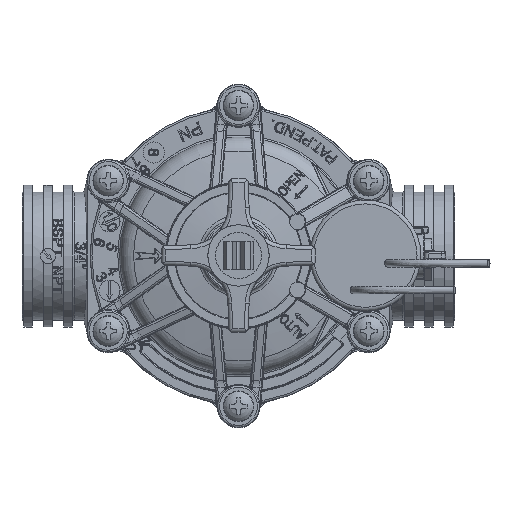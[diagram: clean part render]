
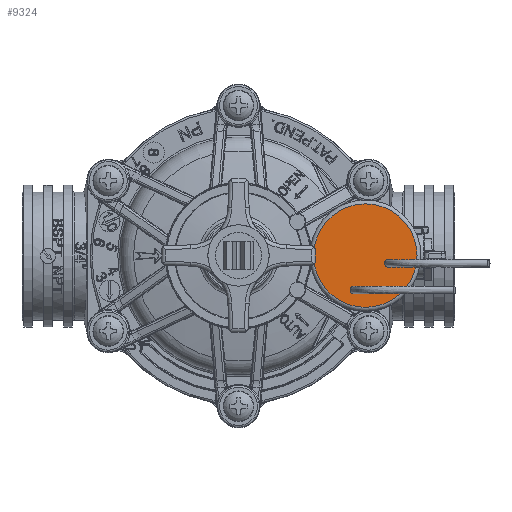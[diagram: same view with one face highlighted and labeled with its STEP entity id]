
A CAD part, top view. The second image highlights one B-rep face of the part: STEP entity #9324.
In plain terms, the highlighted planar face has unit normal (0, 0, 1).
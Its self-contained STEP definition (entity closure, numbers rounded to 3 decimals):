
#8727=CARTESIAN_POINT('',(7.,-2.014,39.));
#8728=VERTEX_POINT('Vertex442',#8727);
#8729=CARTESIAN_POINT('',(7.,-2.014,39.));
#8730=CARTESIAN_POINT('',(7.,-2.145,39.));
#8731=CARTESIAN_POINT('',(6.935,-2.472,39.));
#8732=CARTESIAN_POINT('',(6.589,-2.895,39.));
#8733=CARTESIAN_POINT('',(6.,-3.073,39.));
#8734=CARTESIAN_POINT('',(5.411,-2.895,39.));
#8735=CARTESIAN_POINT('',(5.021,-2.419,39.));
#8736=CARTESIAN_POINT('',(4.961,-1.807,39.));
#8737=CARTESIAN_POINT('',(5.251,-1.265,39.));
#8738=CARTESIAN_POINT('',(5.793,-0.975,39.));
#8739=CARTESIAN_POINT('',(6.405,-1.035,39.));
#8740=CARTESIAN_POINT('',(6.881,-1.425,39.));
#8741=CARTESIAN_POINT('',(7.,-1.818,39.));
#8742=CARTESIAN_POINT('',(7.,-2.014,39.));
#8743=B_SPLINE_CURVE_WITH_KNOTS('',3,(#8729,#8730,#8731,#8732,#8733,#8734,#8735
,#8736,#8737,#8738,#8739,#8740,#8741,#8742),.UNSPECIFIED.,.T.,.F.,(4,1,1,1,1,1,
1,1,1,1,1,4),(-6.283,-5.89,-5.301,
-4.712,-4.123,-3.534,-2.945,
-2.356,-1.767,-1.178,-0.589,0.),
.UNSPECIFIED.);
#8744=EDGE_CURVE('Edge643',#8728,#8728,#8743,.T.);
#9008=CARTESIAN_POINT('',(0.,-13.5,39.));
#9009=VERTEX_POINT('Vertex6411',#9008);
#9010=CARTESIAN_POINT('',(13.5,0.,39.));
#9011=VERTEX_POINT('Vertex444',#9010);
#9012=CARTESIAN_POINT('',(0.,0.,39.));
#9013=DIRECTION('',(0.,0.,-1.));
#9014=DIRECTION('',(0.,-1.,0.));
#9015=AXIS2_PLACEMENT_3D('',#9012,#9013,#9014);
#9016=CIRCLE('',#9015,13.5);
#9017=EDGE_CURVE('Edge10405',#9009,#9011,#9016,.T.);
#9019=CARTESIAN_POINT('',(0.,0.,39.));
#9020=DIRECTION('',(0.,0.,-1.));
#9021=DIRECTION('',(1.,0.,0.));
#9022=AXIS2_PLACEMENT_3D('',#9019,#9020,#9021);
#9023=CIRCLE('',#9022,13.5);
#9024=EDGE_CURVE('Edge10404',#9011,#9009,#9023,.T.);
#9312=ORIENTED_EDGE('Edgeuse20782',*,*,#9017,.F.);
#9313=ORIENTED_EDGE('Edgeuse20780',*,*,#9024,.F.);
#9314=EDGE_LOOP('',(#9312,#9313));
#9315=FACE_OUTER_BOUND('',#9314,.T.);
#9316=ORIENTED_EDGE('Edgeuse1291',*,*,#8744,.T.);
#9317=EDGE_LOOP('',(#9316));
#9318=FACE_BOUND('',#9317,.T.);
#9319=CARTESIAN_POINT('',(0.,0.,39.));
#9320=DIRECTION('',(0.,0.,1.));
#9321=DIRECTION('',(-1.,0.,0.));
#9322=AXIS2_PLACEMENT_3D('',#9319,#9320,#9321);
#9323=PLANE('',#9322);
#9324=ADVANCED_FACE('Face232',(#9315,#9318),#9323,.T.);
